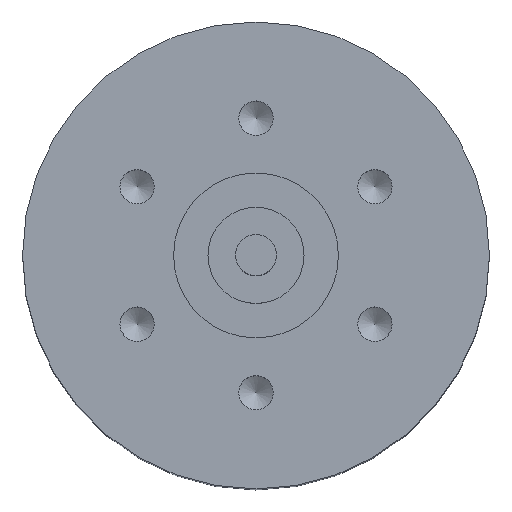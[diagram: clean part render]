
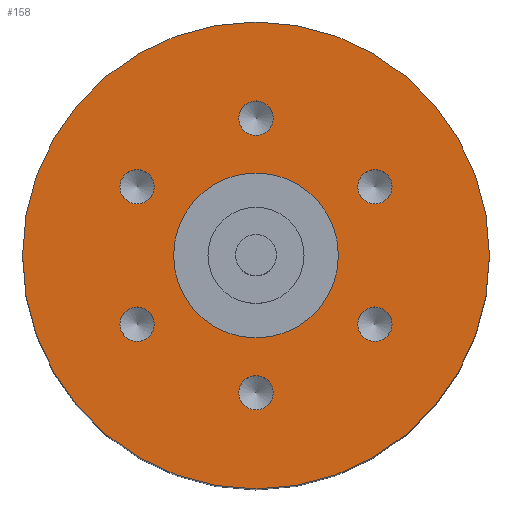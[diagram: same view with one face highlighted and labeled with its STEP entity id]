
A CAD part, top view. The second image highlights one B-rep face of the part: STEP entity #158.
In plain terms, the highlighted planar face has unit normal (0, 0, 1).
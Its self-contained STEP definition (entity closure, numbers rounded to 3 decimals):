
#158=ADVANCED_FACE('',(#245,#246,#247,#248,#249,#250,#251,#252),#212,.T.);
#212=PLANE('',#969);
#245=FACE_BOUND('',#307,.T.);
#246=FACE_BOUND('',#308,.T.);
#247=FACE_BOUND('',#309,.T.);
#248=FACE_BOUND('',#310,.T.);
#249=FACE_BOUND('',#311,.T.);
#250=FACE_BOUND('',#312,.T.);
#251=FACE_BOUND('',#313,.T.);
#252=FACE_BOUND('',#314,.T.);
#307=EDGE_LOOP('',(#560));
#308=EDGE_LOOP('',(#561));
#309=EDGE_LOOP('',(#562));
#310=EDGE_LOOP('',(#563));
#311=EDGE_LOOP('',(#564));
#312=EDGE_LOOP('',(#565));
#313=EDGE_LOOP('',(#566));
#314=EDGE_LOOP('',(#567));
#560=ORIENTED_EDGE('',*,*,#849,.T.);
#561=ORIENTED_EDGE('',*,*,#850,.T.);
#562=ORIENTED_EDGE('',*,*,#851,.T.);
#563=ORIENTED_EDGE('',*,*,#852,.T.);
#564=ORIENTED_EDGE('',*,*,#853,.T.);
#565=ORIENTED_EDGE('',*,*,#854,.T.);
#566=ORIENTED_EDGE('',*,*,#855,.T.);
#567=ORIENTED_EDGE('',*,*,#856,.F.);
#766=VERTEX_POINT('',#1377);
#767=VERTEX_POINT('',#1379);
#768=VERTEX_POINT('',#1381);
#769=VERTEX_POINT('',#1383);
#770=VERTEX_POINT('',#1385);
#771=VERTEX_POINT('',#1387);
#772=VERTEX_POINT('',#1389);
#773=VERTEX_POINT('',#1391);
#849=EDGE_CURVE('',#766,#766,#920,.T.);
#850=EDGE_CURVE('',#767,#767,#921,.T.);
#851=EDGE_CURVE('',#768,#768,#922,.T.);
#852=EDGE_CURVE('',#769,#769,#923,.T.);
#853=EDGE_CURVE('',#770,#770,#924,.T.);
#854=EDGE_CURVE('',#771,#771,#925,.T.);
#855=EDGE_CURVE('',#772,#772,#926,.T.);
#856=EDGE_CURVE('',#773,#773,#927,.T.);
#920=CIRCLE('',#961,0.625);
#921=CIRCLE('',#962,0.625);
#922=CIRCLE('',#963,0.625);
#923=CIRCLE('',#964,0.625);
#924=CIRCLE('',#965,0.625);
#925=CIRCLE('',#966,0.625);
#926=CIRCLE('',#967,8.5);
#927=CIRCLE('',#968,3.);
#961=AXIS2_PLACEMENT_3D('',#1376,#1099,#1100);
#962=AXIS2_PLACEMENT_3D('',#1378,#1101,#1102);
#963=AXIS2_PLACEMENT_3D('',#1380,#1103,#1104);
#964=AXIS2_PLACEMENT_3D('',#1382,#1105,#1106);
#965=AXIS2_PLACEMENT_3D('',#1384,#1107,#1108);
#966=AXIS2_PLACEMENT_3D('',#1386,#1109,#1110);
#967=AXIS2_PLACEMENT_3D('',#1388,#1111,#1112);
#968=AXIS2_PLACEMENT_3D('',#1390,#1113,#1114);
#969=AXIS2_PLACEMENT_3D('',#1392,#1115,#1116);
#1099=DIRECTION('',(0.,0.,-1.));
#1100=DIRECTION('',(-0.5,0.866,0.));
#1101=DIRECTION('',(0.,0.,-1.));
#1102=DIRECTION('',(0.5,0.866,0.));
#1103=DIRECTION('',(0.,0.,-1.));
#1104=DIRECTION('',(1.,0.,0.));
#1105=DIRECTION('',(0.,0.,-1.));
#1106=DIRECTION('',(0.5,-0.866,0.));
#1107=DIRECTION('',(0.,0.,-1.));
#1108=DIRECTION('',(-0.5,-0.866,0.));
#1109=DIRECTION('',(0.,0.,-1.));
#1110=DIRECTION('',(-1.,0.,0.));
#1111=DIRECTION('',(0.,0.,1.));
#1112=DIRECTION('',(1.,0.,0.));
#1113=DIRECTION('',(0.,0.,1.));
#1114=DIRECTION('',(1.,0.,0.));
#1115=DIRECTION('',(0.,0.,1.));
#1116=DIRECTION('',(1.,0.,0.));
#1376=CARTESIAN_POINT('',(4.33,2.5,24.));
#1377=CARTESIAN_POINT('',(4.018,3.041,24.));
#1378=CARTESIAN_POINT('',(4.33,-2.5,24.));
#1379=CARTESIAN_POINT('',(4.643,-1.959,24.));
#1380=CARTESIAN_POINT('',(0.,-5.,24.));
#1381=CARTESIAN_POINT('',(0.625,-5.,24.));
#1382=CARTESIAN_POINT('',(-4.33,-2.5,24.));
#1383=CARTESIAN_POINT('',(-4.018,-3.041,24.));
#1384=CARTESIAN_POINT('',(-4.33,2.5,24.));
#1385=CARTESIAN_POINT('',(-4.643,1.959,24.));
#1386=CARTESIAN_POINT('',(0.,5.,24.));
#1387=CARTESIAN_POINT('',(-0.625,5.,24.));
#1388=CARTESIAN_POINT('',(0.,0.,24.));
#1389=CARTESIAN_POINT('',(8.5,0.,24.));
#1390=CARTESIAN_POINT('',(0.,0.,24.));
#1391=CARTESIAN_POINT('',(3.,0.,24.));
#1392=CARTESIAN_POINT('',(0.,3.,24.));
